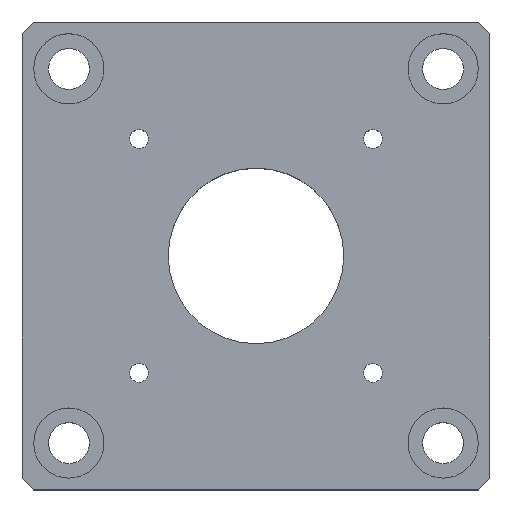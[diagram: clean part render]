
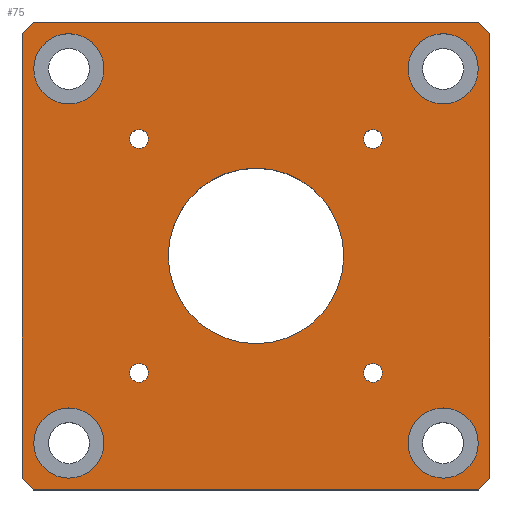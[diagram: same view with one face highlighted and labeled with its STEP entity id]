
A CAD part, top view. The second image highlights one B-rep face of the part: STEP entity #75.
In plain terms, the highlighted planar face has unit normal (0, 0, 1).
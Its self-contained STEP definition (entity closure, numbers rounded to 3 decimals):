
#75 = ADVANCED_FACE( '', ( #103, #104, #105, #106, #107, #108, #109, #110, #111, #112 ), #113, .T. );
#103 = FACE_OUTER_BOUND( '', #192, .T. );
#104 = FACE_BOUND( '', #193, .T. );
#105 = FACE_BOUND( '', #194, .T. );
#106 = FACE_BOUND( '', #195, .T. );
#107 = FACE_BOUND( '', #196, .T. );
#108 = FACE_BOUND( '', #197, .T. );
#109 = FACE_BOUND( '', #198, .T. );
#110 = FACE_BOUND( '', #199, .T. );
#111 = FACE_BOUND( '', #200, .T. );
#112 = FACE_BOUND( '', #201, .T. );
#113 = PLANE( '', #202 );
#192 = EDGE_LOOP( '', ( #281, #282, #283, #284, #285, #286, #287, #288 ) );
#193 = EDGE_LOOP( '', ( #289 ) );
#194 = EDGE_LOOP( '', ( #290 ) );
#195 = EDGE_LOOP( '', ( #291 ) );
#196 = EDGE_LOOP( '', ( #292 ) );
#197 = EDGE_LOOP( '', ( #293 ) );
#198 = EDGE_LOOP( '', ( #294 ) );
#199 = EDGE_LOOP( '', ( #295 ) );
#200 = EDGE_LOOP( '', ( #296 ) );
#201 = EDGE_LOOP( '', ( #297 ) );
#202 = AXIS2_PLACEMENT_3D( '', #298, #299, #300 );
#281 = ORIENTED_EDGE( '', *, *, #462, .F. );
#282 = ORIENTED_EDGE( '', *, *, #463, .T. );
#283 = ORIENTED_EDGE( '', *, *, #464, .F. );
#284 = ORIENTED_EDGE( '', *, *, #465, .T. );
#285 = ORIENTED_EDGE( '', *, *, #466, .F. );
#286 = ORIENTED_EDGE( '', *, *, #467, .T. );
#287 = ORIENTED_EDGE( '', *, *, #468, .F. );
#288 = ORIENTED_EDGE( '', *, *, #469, .T. );
#289 = ORIENTED_EDGE( '', *, *, #470, .T. );
#290 = ORIENTED_EDGE( '', *, *, #471, .T. );
#291 = ORIENTED_EDGE( '', *, *, #472, .T. );
#292 = ORIENTED_EDGE( '', *, *, #473, .T. );
#293 = ORIENTED_EDGE( '', *, *, #474, .T. );
#294 = ORIENTED_EDGE( '', *, *, #475, .T. );
#295 = ORIENTED_EDGE( '', *, *, #476, .T. );
#296 = ORIENTED_EDGE( '', *, *, #477, .T. );
#297 = ORIENTED_EDGE( '', *, *, #478, .T. );
#298 = CARTESIAN_POINT( '', ( 0., 0., 4. ) );
#299 = DIRECTION( '', ( 0., 0., 1. ) );
#300 = DIRECTION( '', ( 1., 0., 0. ) );
#462 = EDGE_CURVE( '', #512, #513, #514, .T. );
#463 = EDGE_CURVE( '', #512, #515, #516, .T. );
#464 = EDGE_CURVE( '', #517, #515, #518, .T. );
#465 = EDGE_CURVE( '', #517, #519, #520, .T. );
#466 = EDGE_CURVE( '', #521, #519, #522, .T. );
#467 = EDGE_CURVE( '', #521, #523, #524, .T. );
#468 = EDGE_CURVE( '', #525, #523, #526, .T. );
#469 = EDGE_CURVE( '', #525, #513, #527, .T. );
#470 = EDGE_CURVE( '', #528, #528, #529, .T. );
#471 = EDGE_CURVE( '', #530, #530, #531, .T. );
#472 = EDGE_CURVE( '', #532, #532, #533, .T. );
#473 = EDGE_CURVE( '', #534, #534, #535, .T. );
#474 = EDGE_CURVE( '', #536, #536, #537, .T. );
#475 = EDGE_CURVE( '', #538, #538, #539, .T. );
#476 = EDGE_CURVE( '', #540, #540, #541, .T. );
#477 = EDGE_CURVE( '', #542, #542, #543, .T. );
#478 = EDGE_CURVE( '', #544, #544, #545, .T. );
#512 = VERTEX_POINT( '', #604 );
#513 = VERTEX_POINT( '', #605 );
#514 = LINE( '', #606, #607 );
#515 = VERTEX_POINT( '', #608 );
#516 = LINE( '', #609, #610 );
#517 = VERTEX_POINT( '', #611 );
#518 = LINE( '', #612, #613 );
#519 = VERTEX_POINT( '', #614 );
#520 = LINE( '', #615, #616 );
#521 = VERTEX_POINT( '', #617 );
#522 = LINE( '', #618, #619 );
#523 = VERTEX_POINT( '', #620 );
#524 = LINE( '', #621, #622 );
#525 = VERTEX_POINT( '', #623 );
#526 = LINE( '', #624, #625 );
#527 = LINE( '', #626, #627 );
#528 = VERTEX_POINT( '', #628 );
#529 = CIRCLE( '', #629, 7.5 );
#530 = VERTEX_POINT( '', #630 );
#531 = CIRCLE( '', #631, 0.8 );
#532 = VERTEX_POINT( '', #632 );
#533 = CIRCLE( '', #633, 0.8 );
#534 = VERTEX_POINT( '', #634 );
#535 = CIRCLE( '', #635, 0.8 );
#536 = VERTEX_POINT( '', #636 );
#537 = CIRCLE( '', #637, 0.8 );
#538 = VERTEX_POINT( '', #638 );
#539 = CIRCLE( '', #639, 3. );
#540 = VERTEX_POINT( '', #640 );
#541 = CIRCLE( '', #641, 3. );
#542 = VERTEX_POINT( '', #642 );
#543 = CIRCLE( '', #643, 3. );
#544 = VERTEX_POINT( '', #644 );
#545 = CIRCLE( '', #645, 3. );
#604 = CARTESIAN_POINT( '', ( -19., 20., 4. ) );
#605 = CARTESIAN_POINT( '', ( 19., 20., 4. ) );
#606 = CARTESIAN_POINT( '', ( 0., 20., 4. ) );
#607 = VECTOR( '', #720, 1000. );
#608 = CARTESIAN_POINT( '', ( -20., 19., 4. ) );
#609 = CARTESIAN_POINT( '', ( -19.5, 19.5, 4. ) );
#610 = VECTOR( '', #721, 1000. );
#611 = CARTESIAN_POINT( '', ( -20., -19., 4. ) );
#612 = CARTESIAN_POINT( '', ( -20., 0., 4. ) );
#613 = VECTOR( '', #722, 1000. );
#614 = CARTESIAN_POINT( '', ( -19., -20., 4. ) );
#615 = CARTESIAN_POINT( '', ( -19.5, -19.5, 4. ) );
#616 = VECTOR( '', #723, 1000. );
#617 = CARTESIAN_POINT( '', ( 19., -20., 4. ) );
#618 = CARTESIAN_POINT( '', ( 0., -20., 4. ) );
#619 = VECTOR( '', #724, 1000. );
#620 = CARTESIAN_POINT( '', ( 20., -19., 4. ) );
#621 = CARTESIAN_POINT( '', ( 19.5, -19.5, 4. ) );
#622 = VECTOR( '', #725, 1000. );
#623 = CARTESIAN_POINT( '', ( 20., 19., 4. ) );
#624 = CARTESIAN_POINT( '', ( 20., 0., 4. ) );
#625 = VECTOR( '', #726, 1000. );
#626 = CARTESIAN_POINT( '', ( 19.5, 19.5, 4. ) );
#627 = VECTOR( '', #727, 1000. );
#628 = CARTESIAN_POINT( '', ( 7.5, 0., 4. ) );
#629 = AXIS2_PLACEMENT_3D( '', #728, #729, #730 );
#630 = CARTESIAN_POINT( '', ( -9.2, -10., 4. ) );
#631 = AXIS2_PLACEMENT_3D( '', #731, #732, #733 );
#632 = CARTESIAN_POINT( '', ( -9.2, 10., 4. ) );
#633 = AXIS2_PLACEMENT_3D( '', #734, #735, #736 );
#634 = CARTESIAN_POINT( '', ( 10.8, 10., 4. ) );
#635 = AXIS2_PLACEMENT_3D( '', #737, #738, #739 );
#636 = CARTESIAN_POINT( '', ( 10.8, -10., 4. ) );
#637 = AXIS2_PLACEMENT_3D( '', #740, #741, #742 );
#638 = CARTESIAN_POINT( '', ( -13., -16., 4. ) );
#639 = AXIS2_PLACEMENT_3D( '', #743, #744, #745 );
#640 = CARTESIAN_POINT( '', ( -13., 16., 4. ) );
#641 = AXIS2_PLACEMENT_3D( '', #746, #747, #748 );
#642 = CARTESIAN_POINT( '', ( 19., 16., 4. ) );
#643 = AXIS2_PLACEMENT_3D( '', #749, #750, #751 );
#644 = CARTESIAN_POINT( '', ( 19., -16., 4. ) );
#645 = AXIS2_PLACEMENT_3D( '', #752, #753, #754 );
#720 = DIRECTION( '', ( 1., 0., 0. ) );
#721 = DIRECTION( '', ( -0.707, -0.707, 0. ) );
#722 = DIRECTION( '', ( 0., 1., 0. ) );
#723 = DIRECTION( '', ( 0.707, -0.707, 0. ) );
#724 = DIRECTION( '', ( -1., 0., 0. ) );
#725 = DIRECTION( '', ( 0.707, 0.707, 0. ) );
#726 = DIRECTION( '', ( 0., -1., 0. ) );
#727 = DIRECTION( '', ( -0.707, 0.707, 0. ) );
#728 = CARTESIAN_POINT( '', ( 0., 0., 4. ) );
#729 = DIRECTION( '', ( 0., 0., -1. ) );
#730 = DIRECTION( '', ( 1., 0., 0. ) );
#731 = CARTESIAN_POINT( '', ( -10., -10., 4. ) );
#732 = DIRECTION( '', ( 0., 0., -1. ) );
#733 = DIRECTION( '', ( 1., 0., 0. ) );
#734 = CARTESIAN_POINT( '', ( -10., 10., 4. ) );
#735 = DIRECTION( '', ( 0., 0., -1. ) );
#736 = DIRECTION( '', ( 1., 0., 0. ) );
#737 = CARTESIAN_POINT( '', ( 10., 10., 4. ) );
#738 = DIRECTION( '', ( 0., 0., -1. ) );
#739 = DIRECTION( '', ( 1., 0., 0. ) );
#740 = CARTESIAN_POINT( '', ( 10., -10., 4. ) );
#741 = DIRECTION( '', ( 0., 0., -1. ) );
#742 = DIRECTION( '', ( 1., 0., 0. ) );
#743 = CARTESIAN_POINT( '', ( -16., -16., 4. ) );
#744 = DIRECTION( '', ( 0., 0., -1. ) );
#745 = DIRECTION( '', ( 1., 0., 0. ) );
#746 = CARTESIAN_POINT( '', ( -16., 16., 4. ) );
#747 = DIRECTION( '', ( 0., 0., -1. ) );
#748 = DIRECTION( '', ( 1., 0., 0. ) );
#749 = CARTESIAN_POINT( '', ( 16., 16., 4. ) );
#750 = DIRECTION( '', ( 0., 0., -1. ) );
#751 = DIRECTION( '', ( 1., 0., 0. ) );
#752 = CARTESIAN_POINT( '', ( 16., -16., 4. ) );
#753 = DIRECTION( '', ( 0., 0., -1. ) );
#754 = DIRECTION( '', ( 1., 0., 0. ) );
